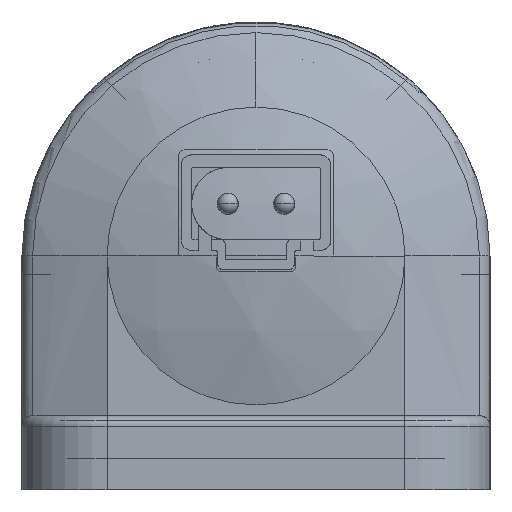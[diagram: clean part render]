
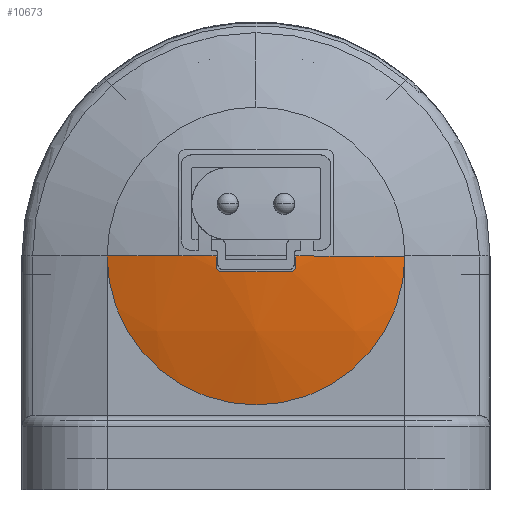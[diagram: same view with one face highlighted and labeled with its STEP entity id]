
A CAD part, left-side view. The second image highlights one B-rep face of the part: STEP entity #10673.
In plain terms, the highlighted spherical face has radius 45 mm.
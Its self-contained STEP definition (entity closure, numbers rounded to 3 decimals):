
#256 = CARTESIAN_POINT ( 'NONE',  ( 65.792, 4.25, 22. ) ) ;
#346 = AXIS2_PLACEMENT_3D ( 'NONE', #256, #19661, #821 ) ;
#597 = CARTESIAN_POINT ( 'NONE',  ( 20.965, 4.25, 20.8 ) ) ;
#770 = ORIENTED_EDGE ( 'NONE', *, *, #2480, .T. ) ;
#821 = DIRECTION ( 'NONE',  ( 0., 0., 1. ) ) ;
#900 = EDGE_CURVE ( 'NONE', #19684, #2442, #5873, .T. ) ;
#959 = CIRCLE ( 'NONE', #18285, 45. ) ;
#1026 = DIRECTION ( 'NONE',  ( 0., -1., 0. ) ) ;
#1151 = CIRCLE ( 'NONE', #7091, 44.843 ) ;
#1553 = CARTESIAN_POINT ( 'NONE',  ( 65.792, 0.5, 22. ) ) ;
#1676 = CIRCLE ( 'NONE', #14577, 45. ) ;
#2442 = VERTEX_POINT ( 'NONE', #6901 ) ;
#2480 = EDGE_CURVE ( 'NONE', #2442, #5163, #7328, .T. ) ;
#2623 = ORIENTED_EDGE ( 'NONE', *, *, #900, .T. ) ;
#2981 = CARTESIAN_POINT ( 'NONE',  ( 20.95, 3.95, 20.5 ) ) ;
#2984 = DIRECTION ( 'NONE',  ( 0., 0., -1. ) ) ;
#3210 = CARTESIAN_POINT ( 'NONE',  ( 20.966, 4.217, 20.643 ) ) ;
#4098 = AXIS2_PLACEMENT_3D ( 'NONE', #14335, #17782, #10286 ) ;
#4195 = EDGE_CURVE ( 'NONE', #5234, #15272, #10299, .T. ) ;
#4219 = VERTEX_POINT ( 'NONE', #11101 ) ;
#4312 = CARTESIAN_POINT ( 'NONE',  ( 20.967, -3.25, 20.721 ) ) ;
#4740 = ORIENTED_EDGE ( 'NONE', *, *, #10264, .F. ) ;
#5040 = CARTESIAN_POINT ( 'NONE',  ( 21.38, -6.75, 22. ) ) ;
#5163 = VERTEX_POINT ( 'NONE', #5040 ) ;
#5208 = VERTEX_POINT ( 'NONE', #17384 ) ;
#5215 = VERTEX_POINT ( 'NONE', #17162 ) ;
#5234 = VERTEX_POINT ( 'NONE', #597 ) ;
#5403 = ORIENTED_EDGE ( 'NONE', *, *, #17558, .T. ) ;
#5516 = EDGE_CURVE ( 'NONE', #15272, #4219, #12959, .T. ) ;
#5627 = ORIENTED_EDGE ( 'NONE', *, *, #5516, .T. ) ;
#5648 = EDGE_CURVE ( 'NONE', #5208, #13865, #1151, .T. ) ;
#5735 = CARTESIAN_POINT ( 'NONE',  ( 20.966, -3.217, 20.643 ) ) ;
#5873 = CIRCLE ( 'NONE', #22072, 14. ) ;
#6004 = B_SPLINE_CURVE_WITH_KNOTS ( 'NONE', 3,
 ( #2981, #10146, #18929, #3210, #8326, #22376 ),
 .UNSPECIFIED., .F., .F.,
 ( 4, 2, 4 ),
 ( 0., 0., 0. ),
 .UNSPECIFIED. ) ;
#6079 = CARTESIAN_POINT ( 'NONE',  ( 65.792, 0.5, 22. ) ) ;
#6190 = EDGE_CURVE ( 'NONE', #20503, #5234, #6004, .T. ) ;
#6221 = CARTESIAN_POINT ( 'NONE',  ( 20.95, 3.95, 20.5 ) ) ;
#6778 = CARTESIAN_POINT ( 'NONE',  ( 65.792, 0.5, 22. ) ) ;
#6901 = CARTESIAN_POINT ( 'NONE',  ( 23.025, -13.5, 22. ) ) ;
#7091 = AXIS2_PLACEMENT_3D ( 'NONE', #13382, #1026, #2984 ) ;
#7328 = CIRCLE ( 'NONE', #20220, 45. ) ;
#7467 = CARTESIAN_POINT ( 'NONE',  ( 20.956, -3.029, 20.5 ) ) ;
#8326 = CARTESIAN_POINT ( 'NONE',  ( 20.967, 4.25, 20.721 ) ) ;
#8498 = DIRECTION ( 'NONE',  ( 0., 1., 0. ) ) ;
#9967 = SPHERICAL_SURFACE ( 'NONE', #10189, 45. ) ;
#10146 = CARTESIAN_POINT ( 'NONE',  ( 20.956, 4.029, 20.5 ) ) ;
#10189 = AXIS2_PLACEMENT_3D ( 'NONE', #1553, #11811, #16913 ) ;
#10264 = EDGE_CURVE ( 'NONE', #19684, #4219, #959, .T. ) ;
#10286 = DIRECTION ( 'NONE',  ( 1., 0., 0. ) ) ;
#10299 = CIRCLE ( 'NONE', #346, 44.843 ) ;
#10313 = FACE_OUTER_BOUND ( 'NONE', #17112, .T. ) ;
#10673 = ADVANCED_FACE ( 'NONE', ( #10313 ), #9967, .T. ) ;
#10804 = DIRECTION ( 'NONE',  ( 0., 0., -1. ) ) ;
#11101 = CARTESIAN_POINT ( 'NONE',  ( 21.38, 7.75, 22. ) ) ;
#11349 = CARTESIAN_POINT ( 'NONE',  ( 20.961, -3.107, 20.532 ) ) ;
#11390 = CARTESIAN_POINT ( 'NONE',  ( 65.792, 0.5, 22. ) ) ;
#11811 = DIRECTION ( 'NONE',  ( 0., 0., -1. ) ) ;
#12046 = DIRECTION ( 'NONE',  ( 1., 0., 0. ) ) ;
#12309 = CARTESIAN_POINT ( 'NONE',  ( 65.792, 0.5, 20.5 ) ) ;
#12476 = CARTESIAN_POINT ( 'NONE',  ( 20.965, -3.25, 20.8 ) ) ;
#12959 = CIRCLE ( 'NONE', #4098, 45. ) ;
#13021 = DIRECTION ( 'NONE',  ( 0., -1., 0. ) ) ;
#13111 = DIRECTION ( 'NONE',  ( 0., 0., -1. ) ) ;
#13382 = CARTESIAN_POINT ( 'NONE',  ( 65.792, -3.25, 22. ) ) ;
#13865 = VERTEX_POINT ( 'NONE', #12476 ) ;
#14335 = CARTESIAN_POINT ( 'NONE',  ( 65.792, 0.5, 22. ) ) ;
#14577 = AXIS2_PLACEMENT_3D ( 'NONE', #6778, #19108, #12046 ) ;
#14707 = CARTESIAN_POINT ( 'NONE',  ( 20.95, -2.95, 20.5 ) ) ;
#15182 = DIRECTION ( 'NONE',  ( -1., 0., 0. ) ) ;
#15272 = VERTEX_POINT ( 'NONE', #22390 ) ;
#16913 = DIRECTION ( 'NONE',  ( 0., 1., 0. ) ) ;
#16993 = ORIENTED_EDGE ( 'NONE', *, *, #18137, .T. ) ;
#17112 = EDGE_LOOP ( 'NONE', ( #2623, #770, #21358, #22484, #16993, #5403, #21259, #19478, #5627, #4740 ) ) ;
#17132 = CARTESIAN_POINT ( 'NONE',  ( 23.025, 0.5, 22. ) ) ;
#17162 = CARTESIAN_POINT ( 'NONE',  ( 20.95, -2.95, 20.5 ) ) ;
#17384 = CARTESIAN_POINT ( 'NONE',  ( 20.949, -3.25, 22. ) ) ;
#17558 = EDGE_CURVE ( 'NONE', #5215, #20503, #20818, .T. ) ;
#17782 = DIRECTION ( 'NONE',  ( 0., 0., -1. ) ) ;
#18137 = EDGE_CURVE ( 'NONE', #13865, #5215, #19514, .T. ) ;
#18285 = AXIS2_PLACEMENT_3D ( 'NONE', #11390, #22009, #13021 ) ;
#18929 = CARTESIAN_POINT ( 'NONE',  ( 20.961, 4.107, 20.532 ) ) ;
#18978 = EDGE_CURVE ( 'NONE', #5163, #5208, #1676, .T. ) ;
#19108 = DIRECTION ( 'NONE',  ( 0., 0., -1. ) ) ;
#19478 = ORIENTED_EDGE ( 'NONE', *, *, #4195, .T. ) ;
#19480 = DIRECTION ( 'NONE',  ( -1., 0., 0. ) ) ;
#19514 = B_SPLINE_CURVE_WITH_KNOTS ( 'NONE', 3,
 ( #21973, #4312, #5735, #11349, #7467, #14707 ),
 .UNSPECIFIED., .F., .F.,
 ( 4, 2, 4 ),
 ( 0., 0., 0. ),
 .UNSPECIFIED. ) ;
#19661 = DIRECTION ( 'NONE',  ( 0., 1., 0. ) ) ;
#19684 = VERTEX_POINT ( 'NONE', #21516 ) ;
#20162 = DIRECTION ( 'NONE',  ( 0., 1., 0. ) ) ;
#20220 = AXIS2_PLACEMENT_3D ( 'NONE', #6079, #13111, #20162 ) ;
#20503 = VERTEX_POINT ( 'NONE', #6221 ) ;
#20818 = CIRCLE ( 'NONE', #21189, 44.975 ) ;
#21189 = AXIS2_PLACEMENT_3D ( 'NONE', #12309, #10804, #19480 ) ;
#21259 = ORIENTED_EDGE ( 'NONE', *, *, #6190, .T. ) ;
#21358 = ORIENTED_EDGE ( 'NONE', *, *, #18978, .T. ) ;
#21516 = CARTESIAN_POINT ( 'NONE',  ( 23.025, 14.5, 22. ) ) ;
#21973 = CARTESIAN_POINT ( 'NONE',  ( 20.965, -3.25, 20.8 ) ) ;
#22009 = DIRECTION ( 'NONE',  ( 0., 0., 1. ) ) ;
#22072 = AXIS2_PLACEMENT_3D ( 'NONE', #17132, #15182, #8498 ) ;
#22376 = CARTESIAN_POINT ( 'NONE',  ( 20.965, 4.25, 20.8 ) ) ;
#22390 = CARTESIAN_POINT ( 'NONE',  ( 20.949, 4.25, 22. ) ) ;
#22484 = ORIENTED_EDGE ( 'NONE', *, *, #5648, .T. ) ;
